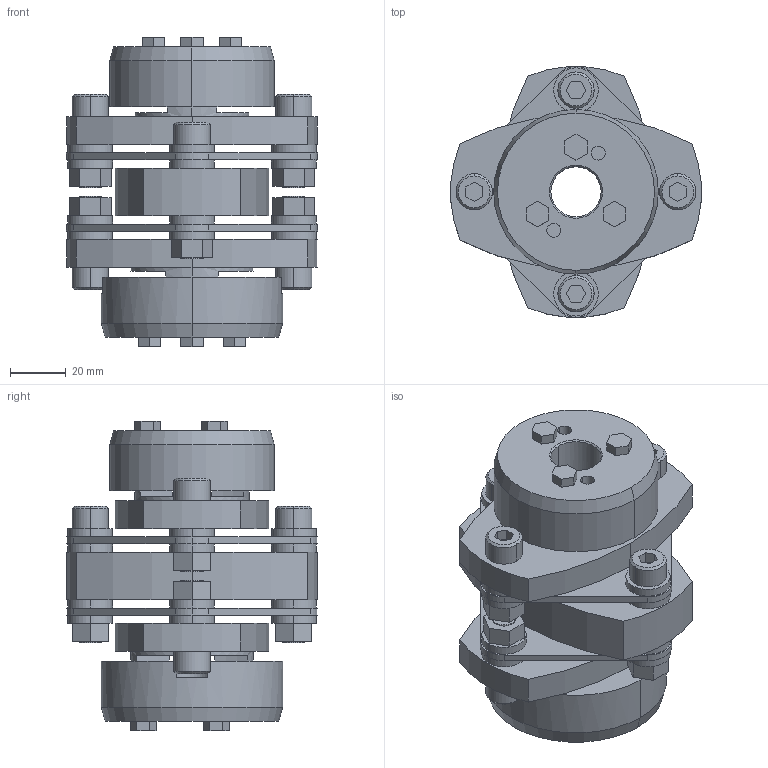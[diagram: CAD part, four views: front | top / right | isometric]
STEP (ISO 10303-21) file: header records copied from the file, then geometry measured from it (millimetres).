
FILE_DESCRIPTION((''),'2;1');
FILE_NAME('LCD-90T7-18×20.stp','2015-11-01T19:58:23',(''),(''),'AutoCAD STEP 2000i','AutoCAD 2000i',', , ');
FILE_SCHEMA(('CONFIG_CONTROL_DESIGN'));
Length unit declared in the file: millimetre
Products named in the file (6): LCD-90T7-19×20; 忣兜1; LC90T7-T020-1; LC90T7-T019-1; LC90T7-T019; LCD90-ITA
Assembly tree (5 placements, depth 2):
  LCD-90T7-19×20
    忣兜1
    LC90T7-T020-1
    LC90T7-T019-1
    LC90T7-T019
    LCD90-ITA
Bounding box: 90 x 89.94 x 111 mm (x, y, z)
Volume: 291546.1 mm3; surface area: 75405.8 mm2
Topology: 1 solids, 1 shells, 324 faces, 792 edges, 520 vertices
Faces by surface type: plane 178, cylinder 122, cone 24
Entity records: 9789 total; most frequent: DIRECTION 1740, CARTESIAN_POINT 1642, ORIENTED_EDGE 1584, EDGE_CURVE 792, AXIS2_PLACEMENT_3D 618, VERTEX_POINT 520, VECTOR 504, LINE 504
